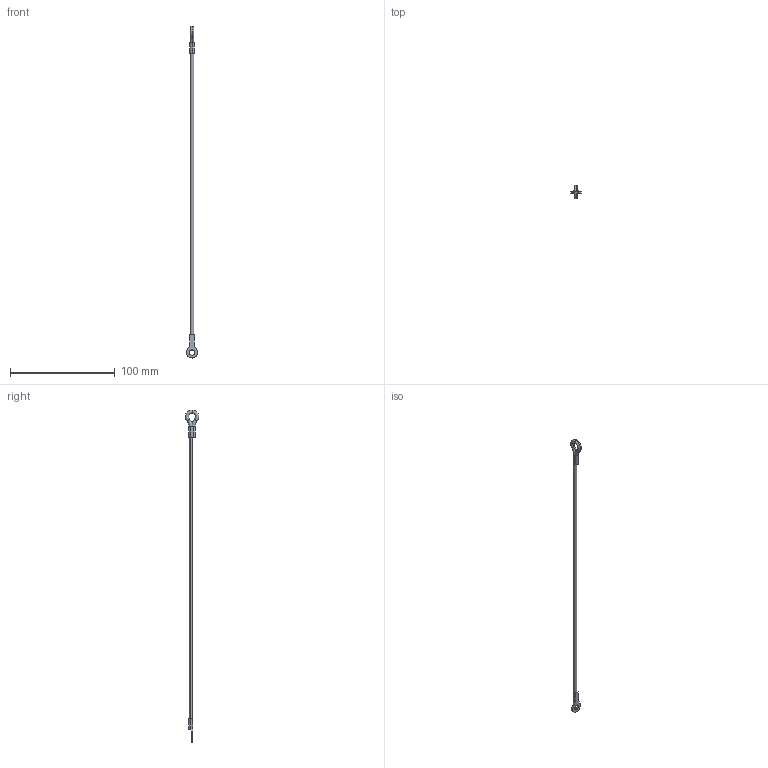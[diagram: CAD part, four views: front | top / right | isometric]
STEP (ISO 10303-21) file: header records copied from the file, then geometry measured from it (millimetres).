
FILE_DESCRIPTION (( 'STEP AP203' ), '1' );
FILE_NAME ('LA1075.I06-304B1.step', '2026-03-23T16:45:38', ( '' ), ( '' ), 'SwSTEP 2.0', 'SolidWorks 2019', '' );
FILE_SCHEMA (( 'CONFIG_CONTROL_DESIGN' ));
Length unit declared in the file: millimetre
Products named in the file (1): LA1075.I06-304B1
Bounding box: 10.41 x 12.75 x 316.39 mm (x, y, z)
Volume: 2886.9 mm3; surface area: 3601.3 mm2
Topology: 1 solids, 1 shells, 30 faces, 72 edges, 45 vertices
Faces by surface type: plane 12, cylinder 10, torus 8
Entity records: 993 total; most frequent: CARTESIAN_POINT 178, DIRECTION 170, ORIENTED_EDGE 144, EDGE_CURVE 72, AXIS2_PLACEMENT_3D 69, VERTEX_POINT 45, CIRCLE 38, EDGE_LOOP 35
